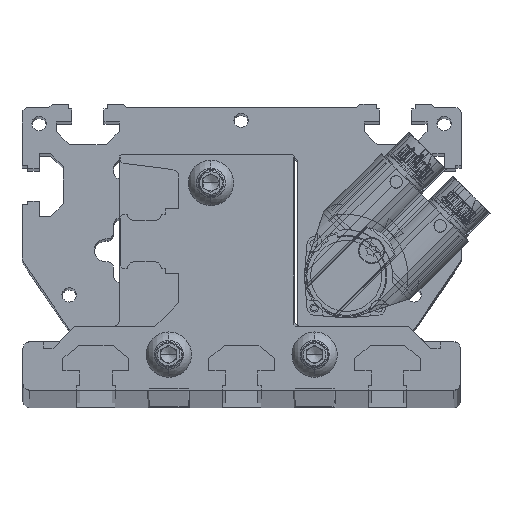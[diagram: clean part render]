
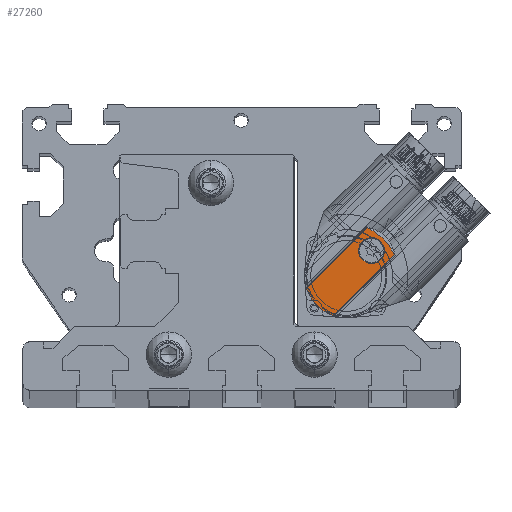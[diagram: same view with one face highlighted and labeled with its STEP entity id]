
A CAD part, top view. The second image highlights one B-rep face of the part: STEP entity #27260.
In plain terms, the highlighted planar face has unit normal (0, 0, 1).
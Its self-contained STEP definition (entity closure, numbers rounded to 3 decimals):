
#366 = VERTEX_POINT ( 'NONE', #11849 ) ;
#2199 = B_SPLINE_CURVE_WITH_KNOTS ( 'NONE', 3,
 ( #8819, #8820, #8821, #8822, #8823, #8824, #8825, #8826, #8827, #8828, #8829, #8830 ),
 .UNSPECIFIED., .F., .F.,
 ( 4, 2, 2, 2, 2, 4 ),
 ( 0., 0.003, 0.006, 0.007, 0.009, 0.012 ),
 .UNSPECIFIED. ) ;
#5163 = AXIS2_PLACEMENT_3D ( 'NONE', #23609, #23610, #23611 ) ;
#5165 = AXIS2_PLACEMENT_3D ( 'NONE', #23612, #23613, #23614 ) ;
#6515 = FACE_BOUND ( 'NONE', #11150, .T. ) ;
#6516 = FACE_OUTER_BOUND ( 'NONE', #11151, .T. ) ;
#8813 = CARTESIAN_POINT ( 'NONE',  ( 13.735, 5.428, 18.8 ) ) ;
#8814 = DIRECTION ( 'NONE',  ( 0.707, 0.707, 0. ) ) ;
#8819 = CARTESIAN_POINT ( 'NONE',  ( 14.874, 6.567, 18.8 ) ) ;
#8820 = CARTESIAN_POINT ( 'NONE',  ( 14.421, 7.463, 18.8 ) ) ;
#8821 = CARTESIAN_POINT ( 'NONE',  ( 13.902, 8.311, 18.8 ) ) ;
#8822 = CARTESIAN_POINT ( 'NONE',  ( 12.741, 9.914, 18.8 ) ) ;
#8823 = CARTESIAN_POINT ( 'NONE',  ( 12.098, 10.67, 18.8 ) ) ;
#8824 = CARTESIAN_POINT ( 'NONE',  ( 11.037, 11.732, 18.8 ) ) ;
#8825 = CARTESIAN_POINT ( 'NONE',  ( 10.668, 12.073, 18.8 ) ) ;
#8826 = CARTESIAN_POINT ( 'NONE',  ( 9.909, 12.72, 18.8 ) ) ;
#8827 = CARTESIAN_POINT ( 'NONE',  ( 9.519, 13.027, 18.8 ) ) ;
#8828 = CARTESIAN_POINT ( 'NONE',  ( 8.312, 13.902, 18.8 ) ) ;
#8829 = CARTESIAN_POINT ( 'NONE',  ( 7.463, 14.421, 18.8 ) ) ;
#8830 = CARTESIAN_POINT ( 'NONE',  ( 6.567, 14.874, 18.8 ) ) ;
#11150 = EDGE_LOOP ( 'NONE', ( #21787, #21788 ) ) ;
#11151 = EDGE_LOOP ( 'NONE', ( #21789, #21790, #21791, #21792 ) ) ;
#11849 = CARTESIAN_POINT ( 'NONE',  ( -3.968, -12.275, 18.8 ) ) ;
#15305 = AXIS2_PLACEMENT_3D ( 'NONE', #16489, #16490, #16491 ) ;
#16488 = PLANE ( 'NONE',  #15305 ) ;
#16489 = CARTESIAN_POINT ( 'NONE',  ( 9.581, 9.581, 18.8 ) ) ;
#16490 = DIRECTION ( 'NONE',  ( 0., 0., 1. ) ) ;
#16491 = DIRECTION ( 'NONE',  ( 0.707, -0.707, 0. ) ) ;
#18544 = CIRCLE ( 'NONE', #19479, 4. ) ;
#18663 = LINE ( 'NONE', #41842, #18664 ) ;
#18664 = VECTOR ( 'NONE', #41843, 1000. ) ;
#19479 = AXIS2_PLACEMENT_3D ( 'NONE', #41474, #41475, #41476 ) ;
#21787 = ORIENTED_EDGE ( 'NONE', *, *, #34203, .T. ) ;
#21788 = ORIENTED_EDGE ( 'NONE', *, *, #38679, .T. ) ;
#21789 = ORIENTED_EDGE ( 'NONE', *, *, #38678, .F. ) ;
#21790 = ORIENTED_EDGE ( 'NONE', *, *, #22679, .T. ) ;
#21791 = ORIENTED_EDGE ( 'NONE', *, *, #22681, .T. ) ;
#21792 = ORIENTED_EDGE ( 'NONE', *, *, #34303, .T. ) ;
#22679 = EDGE_CURVE ( 'NONE', #366, #38998, #38247, .T. ) ;
#22681 = EDGE_CURVE ( 'NONE', #38998, #23042, #2199, .T. ) ;
#22950 = VERTEX_POINT ( 'NONE', #28505 ) ;
#22951 = VERTEX_POINT ( 'NONE', #28506 ) ;
#23042 = VERTEX_POINT ( 'NONE', #28597 ) ;
#23044 = VERTEX_POINT ( 'NONE', #28599 ) ;
#23609 = CARTESIAN_POINT ( 'NONE',  ( 0., 0., 18.8 ) ) ;
#23610 = DIRECTION ( 'NONE',  ( 0., 0., -1. ) ) ;
#23611 = DIRECTION ( 'NONE',  ( 0.707, -0.707, 0. ) ) ;
#23612 = CARTESIAN_POINT ( 'NONE',  ( 7.778, 7.778, 18.8 ) ) ;
#23613 = DIRECTION ( 'NONE',  ( 0., 0., -1. ) ) ;
#23614 = DIRECTION ( 'NONE',  ( -0.707, -0.707, 0. ) ) ;
#24395 = CARTESIAN_POINT ( 'NONE',  ( 14.874, 6.567, 18.8 ) ) ;
#27260 = ADVANCED_FACE ( 'NONE', ( #6515, #6516 ), #16488, .T. ) ;
#28505 = CARTESIAN_POINT ( 'NONE',  ( 10.607, 10.607, 18.8 ) ) ;
#28506 = CARTESIAN_POINT ( 'NONE',  ( 4.95, 4.95, 18.8 ) ) ;
#28597 = CARTESIAN_POINT ( 'NONE',  ( 6.567, 14.874, 18.8 ) ) ;
#28599 = CARTESIAN_POINT ( 'NONE',  ( -12.275, -3.968, 18.8 ) ) ;
#34203 = EDGE_CURVE ( 'NONE', #22951, #22950, #18544, .T. ) ;
#34303 = EDGE_CURVE ( 'NONE', #23042, #23044, #18663, .T. ) ;
#36391 = CIRCLE ( 'NONE', #5163, 12.9 ) ;
#36392 = CIRCLE ( 'NONE', #5165, 4. ) ;
#38247 = LINE ( 'NONE', #8813, #38248 ) ;
#38248 = VECTOR ( 'NONE', #8814, 1000. ) ;
#38678 = EDGE_CURVE ( 'NONE', #366, #23044, #36391, .T. ) ;
#38679 = EDGE_CURVE ( 'NONE', #22950, #22951, #36392, .T. ) ;
#38998 = VERTEX_POINT ( 'NONE', #24395 ) ;
#41474 = CARTESIAN_POINT ( 'NONE',  ( 7.778, 7.778, 18.8 ) ) ;
#41475 = DIRECTION ( 'NONE',  ( 0., 0., -1. ) ) ;
#41476 = DIRECTION ( 'NONE',  ( -0.707, -0.707, 0. ) ) ;
#41842 = CARTESIAN_POINT ( 'NONE',  ( 5.428, 13.735, 18.8 ) ) ;
#41843 = DIRECTION ( 'NONE',  ( -0.707, -0.707, 0. ) ) ;
